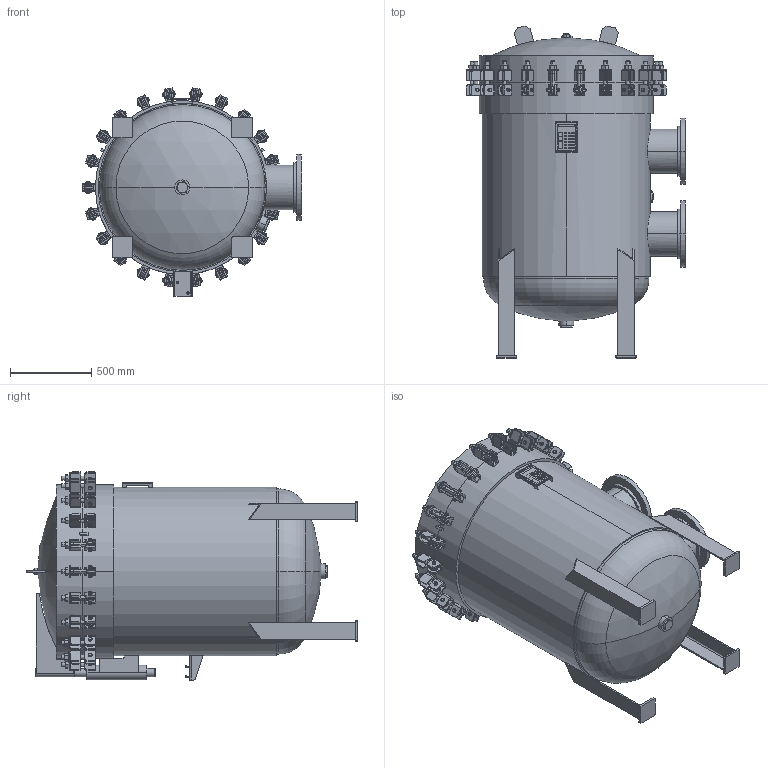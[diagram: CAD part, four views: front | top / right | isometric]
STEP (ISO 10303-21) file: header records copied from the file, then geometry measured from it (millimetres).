
FILE_DESCRIPTION (( 'STEP AP203' ), '1' );
FILE_NAME ('002004-02107.step', '2026-01-06T18:26:49', ( '' ), ( '' ), 'SwSTEP 2.0', 'SolidWorks 2023', '' );
FILE_SCHEMA (( 'CONFIG_CONTROL_DESIGN' ));
Length unit declared in the file: inch
Products named in the file (1): 002004-02107
Bounding box: 1347.79 x 2040.8 x 1279.45 mm (x, y, z)
Volume: 490496606.7 mm3; surface area: 18365431.7 mm2
Topology: 59 solids, 59 shells, 3704 faces, 9320 edges, 5980 vertices
Faces by surface type: plane 1609, cylinder 1391, cone 600, torus 94, sphere 8, bspline 2
Entity records: 117439 total; most frequent: CARTESIAN_POINT 26747, DIRECTION 19690, ORIENTED_EDGE 18640, EDGE_CURVE 9320, AXIS2_PLACEMENT_3D 7551, VERTEX_POINT 5980, LINE 4588, VECTOR 4588
